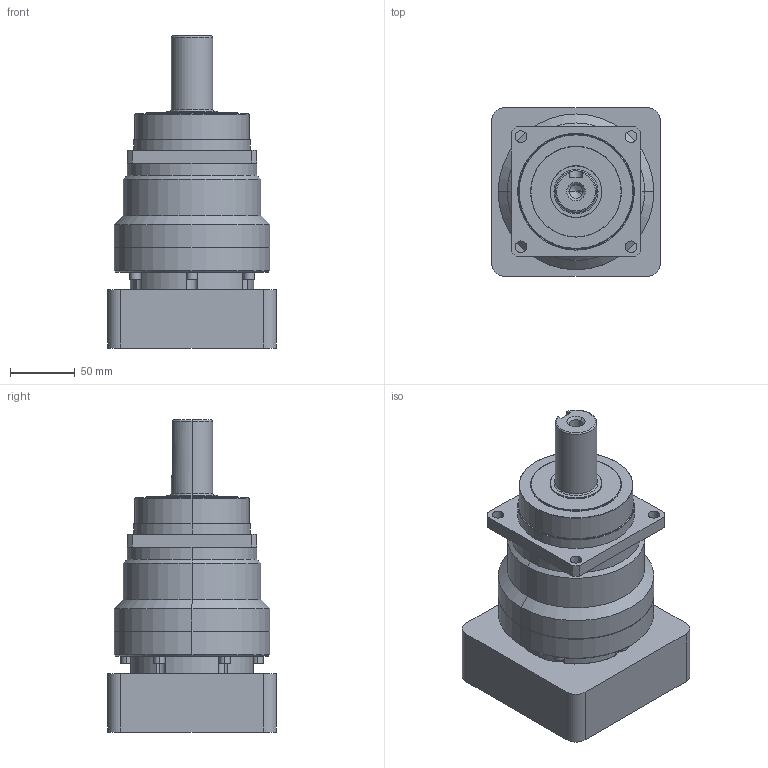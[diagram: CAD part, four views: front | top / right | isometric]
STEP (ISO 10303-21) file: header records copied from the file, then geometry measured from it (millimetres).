
FILE_DESCRIPTION (( 'STEP AP214' ), '1' );
FILE_NAME ('VRS100-L1-S2-P1 24-110-145-M8.STEP', '2023-09-01T01:14:59', ( '微软用户' ), ( '微软中国' ), 'SwSTEP 2.0', 'SolidWorks 2018', '' );
FILE_SCHEMA (( 'AUTOMOTIVE_DESIGN' ));
Length unit declared in the file: millimetre
Products named in the file (1): VRS100-L1-S2-P1 24-110-145-M8
Bounding box: 130 x 130 x 240.5 mm (x, y, z)
Volume: 1674126.9 mm3; surface area: 149702.7 mm2
Topology: 1 solids, 1 shells, 203 faces, 474 edges, 298 vertices
Faces by surface type: plane 82, cylinder 79, cone 35, torus 7
Entity records: 5921 total; most frequent: DIRECTION 1069, CARTESIAN_POINT 1063, ORIENTED_EDGE 944, EDGE_CURVE 472, AXIS2_PLACEMENT_3D 408, VERTEX_POINT 298, LINE 253, VECTOR 253
